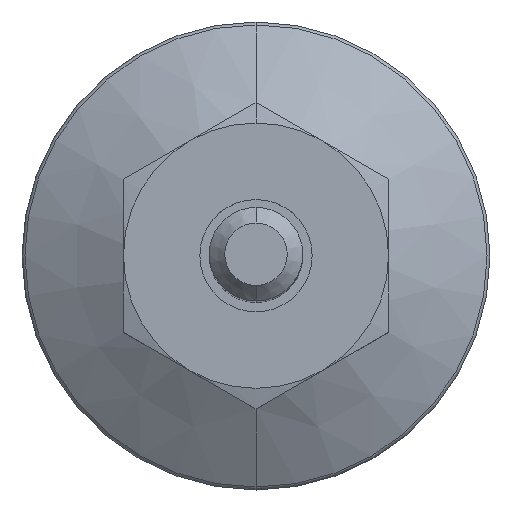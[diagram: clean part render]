
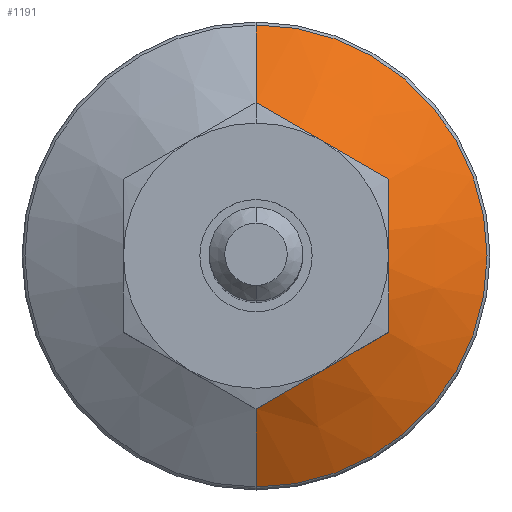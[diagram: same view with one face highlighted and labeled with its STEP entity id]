
A CAD part, top view. The second image highlights one B-rep face of the part: STEP entity #1191.
In plain terms, the highlighted conical face has half-angle 60 degrees and reference radius 1732.05 mm.
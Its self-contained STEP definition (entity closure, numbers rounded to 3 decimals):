
#12 = VERTEX_POINT ( 'NONE', #1182 ) ;
#43 = CARTESIAN_POINT ( 'NONE',  ( 0., 9.815, 4.794 ) ) ;
#44 = CIRCLE ( 'NONE', #1122, 14.813 ) ;
#45 = CARTESIAN_POINT ( 'NONE',  ( 8.5, -4.114, 5.023 ) ) ;
#48 = VECTOR ( 'NONE', #1198, 1000. ) ;
#65 = CONICAL_SURFACE ( 'NONE', #1064, 1732.051, 1.047 ) ;
#80 = CARTESIAN_POINT ( 'NONE',  ( 7.806, -5.308, 5.025 ) ) ;
#85 = CARTESIAN_POINT ( 'NONE',  ( 0., -14.812, 1.908 ) ) ;
#87 = CARTESIAN_POINT ( 'NONE',  ( 4.981, -6.939, 5.552 ) ) ;
#110 = CARTESIAN_POINT ( 'NONE',  ( 5.694, -6.527, 5.48 ) ) ;
#118 = VERTEX_POINT ( 'NONE', #85 ) ;
#159 = DIRECTION ( 'NONE',  ( 0., 0., -1. ) ) ;
#168 = CARTESIAN_POINT ( 'NONE',  ( 8.5, 3.291, 5.217 ) ) ;
#173 = CARTESIAN_POINT ( 'NONE',  ( 0.694, 9.414, 5.025 ) ) ;
#180 = CARTESIAN_POINT ( 'NONE',  ( 7.105, 5.713, 5.216 ) ) ;
#183 = ORIENTED_EDGE ( 'NONE', *, *, #949, .T. ) ;
#187 = CARTESIAN_POINT ( 'NONE',  ( 1.395, -9.009, 5.216 ) ) ;
#205 = CARTESIAN_POINT ( 'NONE',  ( 0., -9.815, 4.794 ) ) ;
#245 = CARTESIAN_POINT ( 'NONE',  ( 0., 0., 10.46 ) ) ;
#250 = ORIENTED_EDGE ( 'NONE', *, *, #1199, .F. ) ;
#254 = DIRECTION ( 'NONE',  ( 0., 0., -1. ) ) ;
#273 = CARTESIAN_POINT ( 'NONE',  ( 4.966, 6.948, 5.535 ) ) ;
#287 = CARTESIAN_POINT ( 'NONE',  ( 7.107, -5.712, 5.216 ) ) ;
#305 = LINE ( 'NONE', #245, #1146 ) ;
#328 = DIRECTION ( 'NONE',  ( 0., 0.866, -0.5 ) ) ;
#343 = VERTEX_POINT ( 'NONE', #455 ) ;
#346 = CARTESIAN_POINT ( 'NONE',  ( 0., 0., -989.54 ) ) ;
#351 = B_SPLINE_CURVE_WITH_KNOTS ( 'NONE', 3,
 ( #1018, #80, #287, #110, #87, #874, #1290, #693, #777, #187, #883, #1098 ),
 .UNSPECIFIED., .F., .F.,
 ( 4, 2, 2, 2, 2, 4 ),
 ( 0., 0.002, 0.005, 0.006, 0.007, 0.01 ),
 .UNSPECIFIED. ) ;
#359 = CARTESIAN_POINT ( 'NONE',  ( 0., 0., 1.908 ) ) ;
#367 = B_SPLINE_CURVE_WITH_KNOTS ( 'NONE', 3,
 ( #843, #662, #168, #468, #1260, #869, #1163, #964, #45, #860 ),
 .UNSPECIFIED., .F., .F.,
 ( 4, 2, 2, 2, 4 ),
 ( 0.009, 0.011, 0.014, 0.016, 0.019 ),
 .UNSPECIFIED. ) ;
#396 = CARTESIAN_POINT ( 'NONE',  ( 0., 0., 10.46 ) ) ;
#432 = VERTEX_POINT ( 'NONE', #710 ) ;
#455 = CARTESIAN_POINT ( 'NONE',  ( 8.5, -4.907, 4.794 ) ) ;
#461 = EDGE_CURVE ( 'NONE', #1246, #118, #1115, .T. ) ;
#468 = CARTESIAN_POINT ( 'NONE',  ( 8.5, 1.652, 5.482 ) ) ;
#471 = CARTESIAN_POINT ( 'NONE',  ( 8.5, 4.907, 4.794 ) ) ;
#549 = CARTESIAN_POINT ( 'NONE',  ( 5.684, 6.533, 5.466 ) ) ;
#556 = CARTESIAN_POINT ( 'NONE',  ( 3.519, 7.783, 5.552 ) ) ;
#596 = VERTEX_POINT ( 'NONE', #43 ) ;
#655 = CARTESIAN_POINT ( 'NONE',  ( 1.393, 9.011, 5.216 ) ) ;
#662 = CARTESIAN_POINT ( 'NONE',  ( 8.5, 4.109, 5.024 ) ) ;
#690 = ORIENTED_EDGE ( 'NONE', *, *, #796, .T. ) ;
#693 = CARTESIAN_POINT ( 'NONE',  ( 2.816, -8.189, 5.466 ) ) ;
#709 = ORIENTED_EDGE ( 'NONE', *, *, #1149, .T. ) ;
#710 = CARTESIAN_POINT ( 'NONE',  ( 8.5, 4.907, 4.794 ) ) ;
#754 = DIRECTION ( 'NONE',  ( 0., 1., 0. ) ) ;
#761 = CARTESIAN_POINT ( 'NONE',  ( 2.806, 8.195, 5.48 ) ) ;
#768 = DIRECTION ( 'NONE',  ( 0., 1., 0. ) ) ;
#777 = CARTESIAN_POINT ( 'NONE',  ( 2.459, -8.395, 5.415 ) ) ;
#796 = EDGE_CURVE ( 'NONE', #596, #432, #1022, .T. ) ;
#843 = CARTESIAN_POINT ( 'NONE',  ( 8.5, 4.907, 4.794 ) ) ;
#860 = CARTESIAN_POINT ( 'NONE',  ( 8.5, -4.907, 4.794 ) ) ;
#869 = CARTESIAN_POINT ( 'NONE',  ( 8.5, -0.831, 5.553 ) ) ;
#874 = CARTESIAN_POINT ( 'NONE',  ( 3.897, -7.565, 5.553 ) ) ;
#883 = CARTESIAN_POINT ( 'NONE',  ( 0.695, -9.414, 5.025 ) ) ;
#913 = ORIENTED_EDGE ( 'NONE', *, *, #1066, .F. ) ;
#949 = EDGE_CURVE ( 'NONE', #343, #1246, #351, .T. ) ;
#962 = ORIENTED_EDGE ( 'NONE', *, *, #461, .T. ) ;
#964 = CARTESIAN_POINT ( 'NONE',  ( 8.5, -3.311, 5.213 ) ) ;
#965 = EDGE_LOOP ( 'NONE', ( #183, #962, #250, #913, #690, #709 ) ) ;
#972 = CARTESIAN_POINT ( 'NONE',  ( 4.603, 7.157, 5.553 ) ) ;
#1018 = CARTESIAN_POINT ( 'NONE',  ( 8.5, -4.907, 4.794 ) ) ;
#1022 = B_SPLINE_CURVE_WITH_KNOTS ( 'NONE', 3,
 ( #1075, #173, #655, #761, #556, #972, #273, #549, #1173, #180, #1079, #471 ),
 .UNSPECIFIED., .F., .F.,
 ( 4, 2, 2, 2, 2, 4 ),
 ( 0., 0.002, 0.005, 0.006, 0.007, 0.01 ),
 .UNSPECIFIED. ) ;
#1064 = AXIS2_PLACEMENT_3D ( 'NONE', #346, #254, #754 ) ;
#1066 = EDGE_CURVE ( 'NONE', #596, #12, #305, .T. ) ;
#1073 = FACE_OUTER_BOUND ( 'NONE', #965, .T. ) ;
#1075 = CARTESIAN_POINT ( 'NONE',  ( 0., 9.815, 4.794 ) ) ;
#1079 = CARTESIAN_POINT ( 'NONE',  ( 7.805, 5.309, 5.025 ) ) ;
#1098 = CARTESIAN_POINT ( 'NONE',  ( 0., -9.815, 4.794 ) ) ;
#1115 = LINE ( 'NONE', #396, #48 ) ;
#1122 = AXIS2_PLACEMENT_3D ( 'NONE', #359, #159, #768 ) ;
#1146 = VECTOR ( 'NONE', #328, 1000. ) ;
#1149 = EDGE_CURVE ( 'NONE', #432, #343, #367, .T. ) ;
#1163 = CARTESIAN_POINT ( 'NONE',  ( 8.5, -1.672, 5.479 ) ) ;
#1173 = CARTESIAN_POINT ( 'NONE',  ( 6.041, 6.327, 5.415 ) ) ;
#1182 = CARTESIAN_POINT ( 'NONE',  ( 0., 14.812, 1.908 ) ) ;
#1191 = ADVANCED_FACE ( 'NONE', ( #1073 ), #65, .T. ) ;
#1198 = DIRECTION ( 'NONE',  ( 0., -0.866, -0.5 ) ) ;
#1199 = EDGE_CURVE ( 'NONE', #12, #118, #44, .T. ) ;
#1246 = VERTEX_POINT ( 'NONE', #205 ) ;
#1260 = CARTESIAN_POINT ( 'NONE',  ( 8.5, 0.828, 5.553 ) ) ;
#1290 = CARTESIAN_POINT ( 'NONE',  ( 3.534, -7.775, 5.535 ) ) ;
